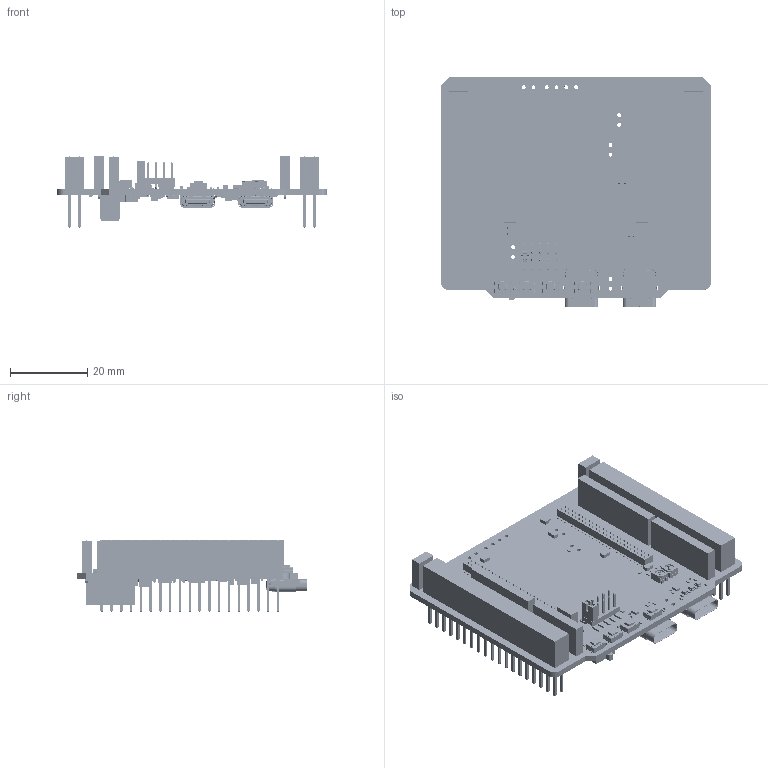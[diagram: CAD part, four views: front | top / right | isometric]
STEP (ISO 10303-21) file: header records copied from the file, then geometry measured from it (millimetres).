
FILE_DESCRIPTION(('Open CASCADE Model'),'2;1');
FILE_NAME('Open CASCADE Shape Model','2025-01-18T14:51:35',('Author'),( 'Open CASCADE'),'Open CASCADE STEP processor 7.5','Open CASCADE 7.5' ,'Unknown');
FILE_SCHEMA(('AUTOMOTIVE_DESIGN { 1 0 10303 214 1 1 1 1 }'));
Length unit declared in the file: millimetre
Products named in the file (378): PCB; Board; Open CASCADE STEP translator 7.5 1.1.1; U19; 0201; 6984397472; Extruded; U18; 6983571408; U17; U16; SB33; R0402; 6983570528; SB30; C62; C0402; 6984395392; U15; User Library-User Library-DHVQFN 16-1; 6983273600; Cylinder; 6983273440; SB25; SB8; SB7; R67; R66; R65; R64; R63; R62; R61; C61; C60; SB3; SB21; X1; NX2016; 6983271200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
Assembly tree (951 placements, depth 4):
  PCB
    Board
      Open CASCADE STEP translator 7.5 1.1.1
    U19
      0201
      6984397472
        Extruded
    U18
      0201
      6983571408
        Extruded
    U17
      0201
      6983571408
        Extruded
    U16
      0201
      6983571408
        Extruded
    SB33
      R0402
      6983570528
        Extruded
    SB30
      R0402
      6983570528
        Extruded
    C62
      C0402
      6984395392
        Extruded
    U15
      User Library-User Library-DHVQFN 16-1
      6983273600
        Cylinder
      6983273440
        Extruded
    SB25
      R0402
      6983570528
        Extruded
    SB8
      R0402
      6983570528
        Extruded
    SB7
      R0402
      6983570528
        Extruded
    R67
      R0402
      6984395392
        Extruded
    R66
      R0402
      6984395392
        Extruded
    R65
      R0402
      6984395392
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Bounding box: 70.1 x 59.45 x 18.67 mm (x, y, z)
Volume: 17623.5 mm3; surface area: 32367.3 mm2
Topology: 921 solids, 957 shells, 45610 faces, 110043 edges, 63555 vertices
Faces by surface type: plane 20929, cylinder 12612, bspline 5844, sphere 4734, torus 957, revolution 354, cone 180
Full cylindrical faces by diameter (mm): 0.2 x4, 0.3 x2, 0.4 x4, 0.5 x1, 0.65 x2, 0.9 x2, 0.97 x2, 1 x96, 1.1 x32, 1.19 x2
Entity records: 342733 total; most frequent: CARTESIAN_POINT 60148, ORIENTED_EDGE 47610, DIRECTION 46092, EDGE_CURVE 23806, LINE 20072, VECTOR 20072, VERTEX_POINT 15177, AXIS2_PLACEMENT_3D 13005
